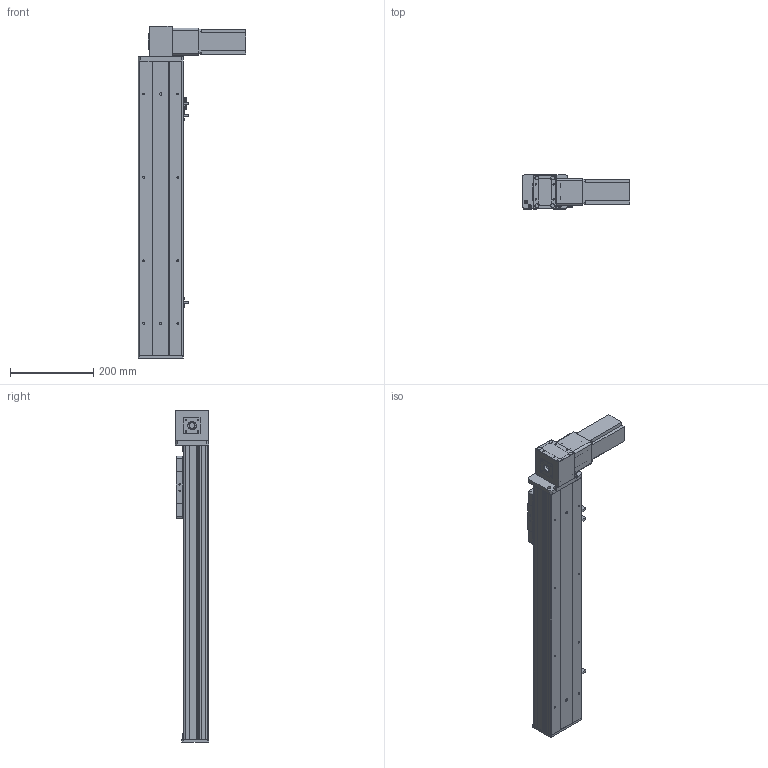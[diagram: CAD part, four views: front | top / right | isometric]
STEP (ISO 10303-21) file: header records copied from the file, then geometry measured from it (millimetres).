
FILE_DESCRIPTION (( 'STEP AP203' ), '1' );
FILE_NAME ('Y10CB-D90-S450-BD-P400W.STEP', '2020-02-17T02:23:33', ( '微软用户' ), ( '微软中国' ), 'SwSTEP 2.0', 'SolidWorks 2017', '' );
FILE_SCHEMA (( 'CONFIG_CONTROL_DESIGN' ));
Length unit declared in the file: millimetre
Products named in the file (16): 0B-薊粣ん眊; 10CB-詩湍-; Y10CB-D90-S450-BD-P400W; Y10CB- 掛极耜裔啣-毀---; Y10C---詩湍揤啣; 0CB-雄赽釱---; 10CB9-掛极; 0Cb-俋欶---; 10CB-耜裔; Y10B-々湍喘謫眊楊擘啣--; Y135C-陔俋离換覜結え-; san松下电机400不带刹车----; Y100-135俋离換覜ん--; 0B-源倛裔啣; Y10B--々湍喘謫眊--666; 0B-埴倛裔啣
Assembly tree (19 placements, depth 2):
  Y10CB-D90-S450-BD-P400W
    0CB-雄赽釱---
    0Cb-俋欶---
    Y10B-々湍喘謫眊楊擘啣--
    san松下电机400不带刹车----
    0B-源倛裔啣
    0B-埴倛裔啣
    10CB-詩湍-
    Y10CB- 掛极耜裔啣-毀---  x2
    Y10C---詩湍揤啣  x2
    10CB9-掛极
    10CB-耜裔
    Y135C-陔俋离換覜結え-
    Y100-135俋离換覜ん--  x3
    Y10B--々湍喘謫眊--666
    0B-薊粣ん眊
Bounding box: 258 x 80.5 x 796 mm (x, y, z)
Volume: 2176571.9 mm3; surface area: 883576.9 mm2
Topology: 19 solids, 19 shells, 864 faces, 2262 edges, 1484 vertices
Faces by surface type: plane 430, cylinder 410, cone 24
Entity records: 26069 total; most frequent: CARTESIAN_POINT 4460, DIRECTION 4253, ORIENTED_EDGE 3994, EDGE_CURVE 1997, AXIS2_PLACEMENT_3D 1527, VERTEX_POINT 1310, VECTOR 1199, LINE 1199
